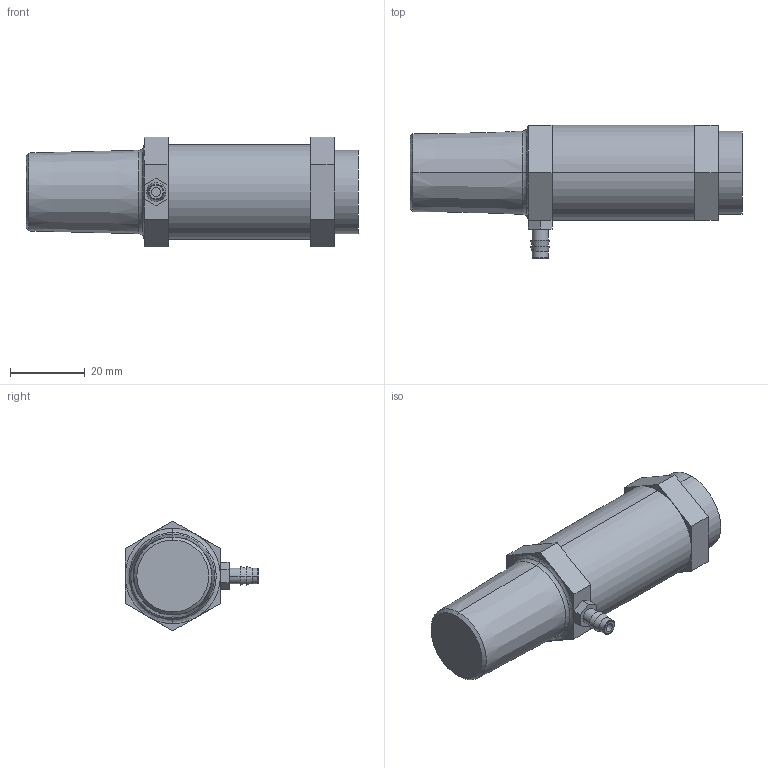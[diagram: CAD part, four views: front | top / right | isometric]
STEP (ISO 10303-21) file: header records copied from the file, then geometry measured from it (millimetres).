
FILE_DESCRIPTION((''),'2;1');
FILE_NAME('UE2_ASM','2017-08-24T',('jennifer.elliott'),('CenterLine (Windsor) Ltd - Automation Components Division'),'PRO/ENGINEER BY PARAMETRIC TECHNOLOGY CORPORATION, 2015030','PRO/ENGINEER BY PARAMETRIC TECHNOLOGY CORPORATION, 2015030','');
FILE_SCHEMA(('AUTOMOTIVE_DESIGN { 1 0 10303 214 1 1 1 1 }'));
Length unit declared in the file: inch
Products named in the file (6): PRT0115; PRT0116; PRT0117; PRT0118; PRT0119; UE2_ASM
Assembly tree (5 placements, depth 2):
  UE2_ASM
    PRT0115
    PRT0116
    PRT0117
    PRT0118
    PRT0119
Bounding box: 88.77 x 35.75 x 29.33 mm (x, y, z)
Volume: 40618.4 mm3; surface area: 10955.8 mm2
Topology: 5 solids, 5 shells, 69 faces, 144 edges, 88 vertices
Faces by surface type: plane 43, cylinder 10, torus 8, cone 8
Entity records: 2208 total; most frequent: DIRECTION 364, CARTESIAN_POINT 328, ORIENTED_EDGE 288, EDGE_CURVE 144, AXIS2_PLACEMENT_3D 140, VERTEX_POINT 88, VECTOR 84, LINE 84
